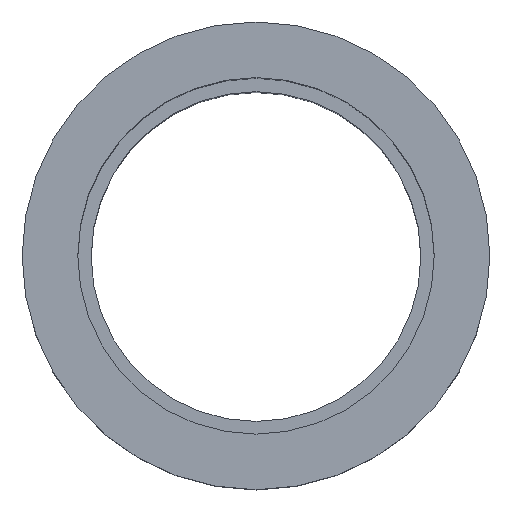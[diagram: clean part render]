
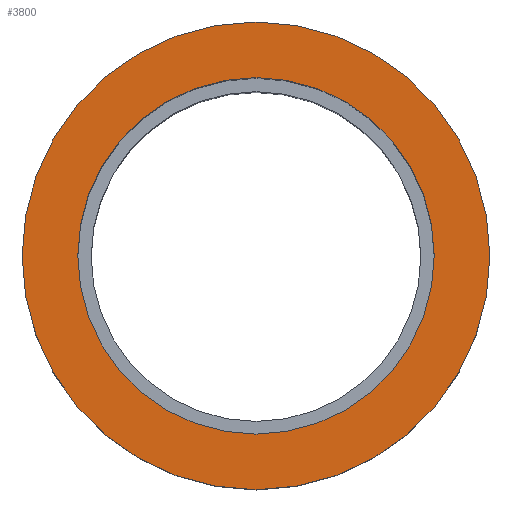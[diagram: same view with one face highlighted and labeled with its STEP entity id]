
A CAD part, top view. The second image highlights one B-rep face of the part: STEP entity #3800.
In plain terms, the highlighted planar face has unit normal (0, 0, 1) as drawn and (1, 0, 0) by its records, which use the part's own axes.
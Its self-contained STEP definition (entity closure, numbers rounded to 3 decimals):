
#2930=CARTESIAN_POINT('',(154.301,16.,0.));
#2940=VERTEX_POINT('',#2930);
#2970=CARTESIAN_POINT('',(154.301,38.7,0.));
#2980=DIRECTION('',(1.,0.,0.));
#2990=DIRECTION('',(0.,-1.,0.));
#3000=AXIS2_PLACEMENT_3D('',#2970,#2980,#2990);
#3010=CIRCLE('',#3000,22.7);
#3020=CARTESIAN_POINT('',(154.301,61.4,0.));
#3030=VERTEX_POINT('',#3020);
#3040=EDGE_CURVE('',#2940,#3030,#3010,.T.);
#3550=CARTESIAN_POINT('',(154.301,60.,0.));
#3560=DIRECTION('',(1.,0.,0.));
#3570=DIRECTION('',(0.,-1.,0.));
#3580=AXIS2_PLACEMENT_3D('',#3550,#3560,#3570);
#3590=PLANE('',#3580);
#3600=CARTESIAN_POINT('',(154.301,38.7,0.));
#3610=DIRECTION('',(-1.,0.,0.));
#3620=DIRECTION('',(0.,1.,0.));
#3630=AXIS2_PLACEMENT_3D('',#3600,#3610,#3620);
#3640=CIRCLE('',#3630,17.3);
#3650=CARTESIAN_POINT('',(154.301,56.,0.));
#3660=VERTEX_POINT('',#3650);
#3670=CARTESIAN_POINT('',(154.301,21.4,0.));
#3680=VERTEX_POINT('',#3670);
#3690=EDGE_CURVE('',#3660,#3680,#3640,.T.);
#3700=ORIENTED_EDGE('',*,*,#3690,.T.);
#3710=EDGE_CURVE('',#3680,#3660,#3640,.T.);
#3720=ORIENTED_EDGE('',*,*,#3710,.T.);
#3730=EDGE_LOOP('',(#3720,#3700));
#3740=FACE_BOUND('',#3730,.T.);
#3750=ORIENTED_EDGE('',*,*,#3040,.T.);
#3760=EDGE_CURVE('',#3030,#2940,#3010,.T.);
#3770=ORIENTED_EDGE('',*,*,#3760,.T.);
#3780=EDGE_LOOP('',(#3770,#3750));
#3790=FACE_OUTER_BOUND('',#3780,.T.);
#3800=ADVANCED_FACE('',(#3740,#3790),#3590,.T.);
